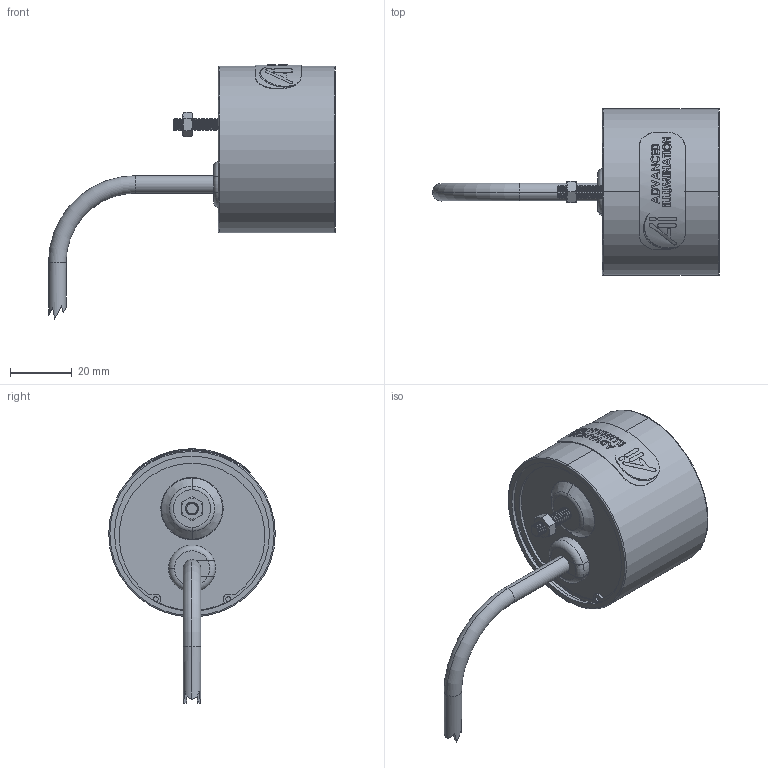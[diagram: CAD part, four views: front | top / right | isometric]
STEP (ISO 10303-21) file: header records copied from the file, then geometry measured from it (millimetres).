
FILE_DESCRIPTION (( 'STEP AP214' ), '1' );
FILE_NAME ('SL1236_Default.stp', '2021-05-10T14:19:57', ( '' ), ( '' ), 'SwSTEP 2.0', 'SolidWorks 2018', '' );
FILE_SCHEMA (( 'AUTOMOTIVE_DESIGN' ));
Length unit declared in the file: inch
Products named in the file (12): N5000-193_99142A380; 001-03-008 solid; HN-M4_90592A016; HWM 04016; 091053 (RL2115 & RL2316)_Default<As Machined>; 1157 (no strap); 001-03-017; SL1236_Default; 001-02-004; 091530; 001-01-001_Default<As Machined>; 092408_TRUNCATED
Assembly tree (11 placements, depth 3):
  SL1236_Default
    001-01-001_Default<As Machined>
    001-03-017
    001-03-008 solid
    001-02-004
      091530
      HWM 04016
    N5000-193_99142A380
    1157 (no strap)
    HN-M4_90592A016
    091053 (RL2115 & RL2316)_Default<As Machined>
    092408_TRUNCATED
Bounding box: 93.27 x 54.18 x 82.61 mm (x, y, z)
Volume: 19592.5 mm3; surface area: 31782.7 mm2
Topology: 18 solids, 18 shells, 512 faces, 1249 edges, 809 vertices
Faces by surface type: plane 191, cylinder 167, bspline 89, cone 44, torus 21
Entity records: 27826 total; most frequent: CARTESIAN_POINT 12780, ORIENTED_EDGE 2498, DIRECTION 2023, EDGE_CURVE 1249, AXIS2_PLACEMENT_3D 817, VERTEX_POINT 809, EDGE_LOOP 564, ADVANCED_FACE 512
